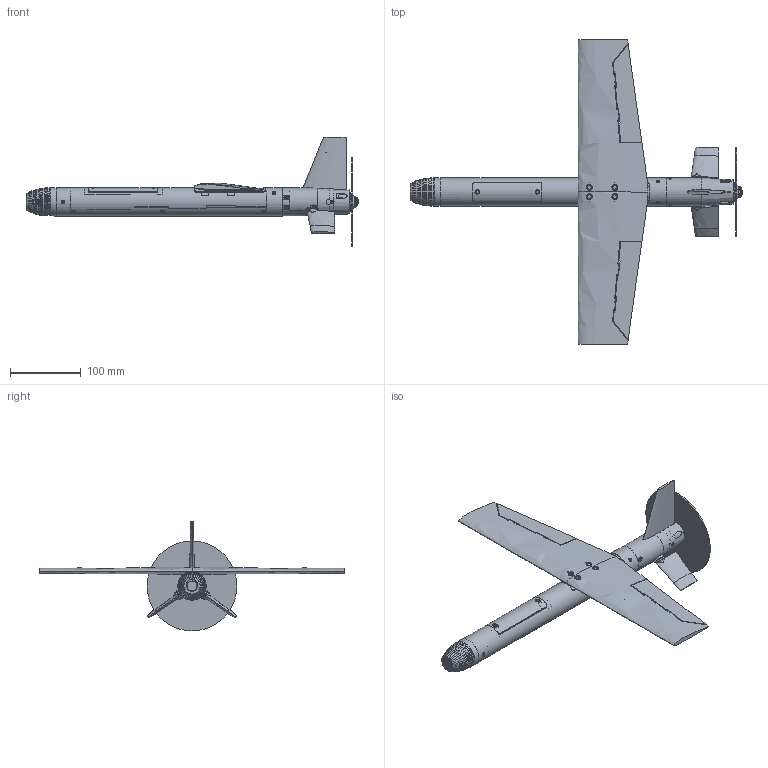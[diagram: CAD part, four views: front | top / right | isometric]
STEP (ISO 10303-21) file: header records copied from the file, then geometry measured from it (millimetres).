
FILE_DESCRIPTION(('SkyG Speed 90B - revision C6B-19 - 2026-10-15','C6B-assembly'),'2;1');
FILE_NAME('C6B-assembly_C6B-19','2026-10-15T15:56:17',('Author'),( 'Open CASCADE'),'Open CASCADE STEP processor 7.9','Open CASCADE 7.9' ,'Unknown');
FILE_SCHEMA(('AUTOMOTIVE_DESIGN { 1 0 10303 214 1 1 1 1 }'));
Length unit declared in the file: millimetre
Products named in the file (172): C4; N0M-nose-micro-camera; N0M-vtx-shelf; F3-tail-module; WR-wing-right; WL-wing-left; AR-aileron-right; AL-aileron-left; SR-stabilator-right; SL-stabilator-left; FN-fin; AHR-aileron-horn-right; AHL-aileron-horn-left; THR-tail-horn-right; THL-tail-horn-left; TR-equipment-tray; BF-battery-front-stop; TC-tail-coupler; CW-countersunk-washer; NB1-wing-nut-bar-front; NB2-wing-nut-bar-rear; HL1-hatch-lip-front; HL2-hatch-lip-rear; HF-front-hatch; WF-wing-window-filler; HG-gps-carrier; M1-motor-plate; SP-spinner; ENV-scr_mplate_R; ENV-cw_15; ENV-scr_mplate_L; ENV-cw_16; ENV-motor; ENV-prop_disc; ENV-prop_hub_nut; ENV-battery; ENV-camera_micro19; ENV-cam_screws; ENV-O_o4_camera; ENV-O_window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
Assembly tree (171 placements, depth 2):
  C4
    N0M-nose-micro-camera
    N0M-vtx-shelf
    F3-tail-module
    WR-wing-right
    WL-wing-left
    AR-aileron-right
    AL-aileron-left
    SR-stabilator-right
    SL-stabilator-left
    FN-fin
    AHR-aileron-horn-right
    AHL-aileron-horn-left
    THR-tail-horn-right
    THL-tail-horn-left
    TR-equipment-tray
    BF-battery-front-stop
    TC-tail-coupler
    CW-countersunk-washer
    NB1-wing-nut-bar-front
    NB2-wing-nut-bar-rear
    HL1-hatch-lip-front
    HL2-hatch-lip-rear
    HF-front-hatch
    WF-wing-window-filler
    HG-gps-carrier
    M1-motor-plate
    SP-spinner
    ENV-scr_mplate_R
    ENV-cw_15
    ENV-scr_mplate_L
    ENV-cw_16
    ENV-motor
    ENV-prop_disc
    ENV-prop_hub_nut
    ENV-battery
    ENV-camera_micro19
    ENV-cam_screws
    ENV-O_o4_camera
    ENV-O_window
    ENV-O_o4_screws
    ENV-O_o4_module
    ENV-vtx
    ENV-gnss
    ENV-flight_controller
    ENV-ail_servo_arm
    ENV-ail_rod_R
    ENV-ail_link_R
    ENV-ail_rod_L
    ENV-ail_link_L
    ENV-ail_spine_R
    ENV-ail_spine_L
    ENV-receiver
    ENV-ant_elrs
    ENV-ant_vtx
    ENV-O_ant_video
    ENV-aileron_servo
    ENV-tail_servo_L
    ENV-tail_servo_R
    ENV-esc
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Bounding box: 469.18 x 430 x 155.1 mm (x, y, z)
Volume: 499325.5 mm3; surface area: 356017.3 mm2
Topology: 221 solids, 223 shells, 3185 faces, 8108 edges, 5363 vertices
Faces by surface type: plane 1885, cylinder 623, bspline 481, cone 149, sphere 21, torus 15, revolution 11
Full cylindrical faces by diameter (mm): 0.98 x6, 1.107 x11, 1.2 x22, 1.25 x8, 1.5 x2, 1.6 x20, 1.65 x2, 1.75 x4, 1.9 x1, 2 x34, 2.1 x4, 2.2 x22, 2.5 x2, 2.6 x4, 2.842 x6, 3 x19, 3.05 x2, 3.2 x8, 3.3 x6, 3.8 x2, 3.9 x3, 3.94 x3, 4 x4, 4.9 x16, 5 x14, 5.2 x3, 5.5 x4, 5.6 x3, 6 x5, 6.3 x2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
Entity records: 510842 total; most frequent: CARTESIAN_POINT 358173, DIRECTION 22985, ORIENTED_EDGE 16174, PCURVE 16174, DEFINITIONAL_REPRESENTATION 16174, LINE 11185, VECTOR 11185, B_SPLINE_CURVE_WITH_KNOTS 8550
